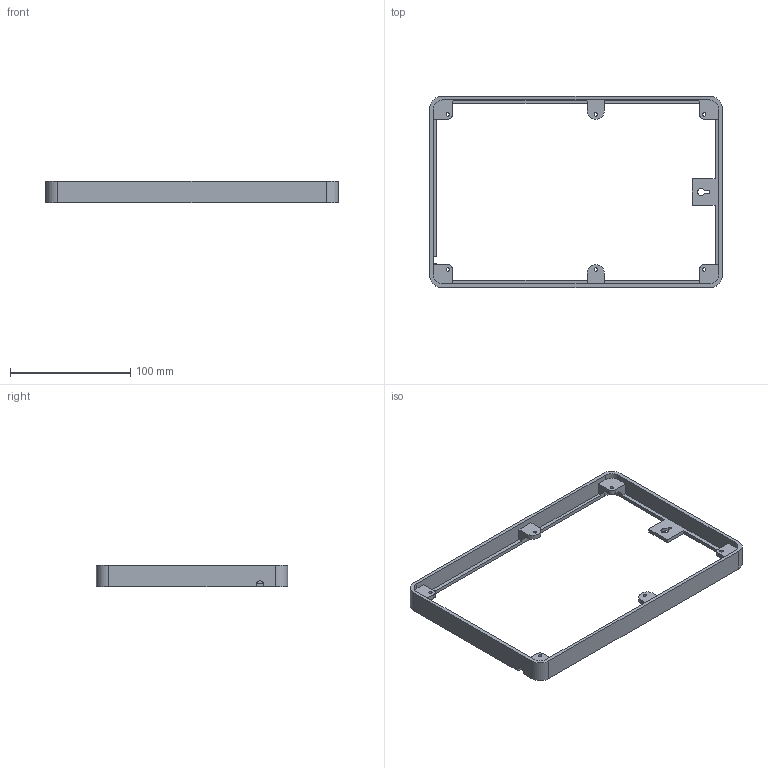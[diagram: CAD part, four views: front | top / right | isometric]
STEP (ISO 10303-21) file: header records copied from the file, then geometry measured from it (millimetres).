
FILE_DESCRIPTION(('FreeCAD Model'),'2;1');
FILE_NAME('Open CASCADE Shape Model','2025-11-21T22:10:00',(''),(''), 'Open CASCADE STEP processor 7.9','FreeCAD','Unknown');
FILE_SCHEMA(('AUTOMOTIVE_DESIGN { 1 0 10303 214 1 1 1 1 }'));
Length unit declared in the file: millimetre
Products named in the file (1): portrait
Bounding box: 242.8 x 158.7 x 18 mm (x, y, z)
Volume: 59492.2 mm3; surface area: 40108 mm2
Topology: 1 solids, 1 shells, 95 faces, 276 edges, 182 vertices
Faces by surface type: plane 64, cylinder 27, cone 4
Full cylindrical faces by diameter (mm): 2.8 x6
Entity records: 3178 total; most frequent: CARTESIAN_POINT 554, ORIENTED_EDGE 552, DIRECTION 530, EDGE_CURVE 276, LINE 214, VECTOR 214, VERTEX_POINT 182, AXIS2_PLACEMENT_3D 158
